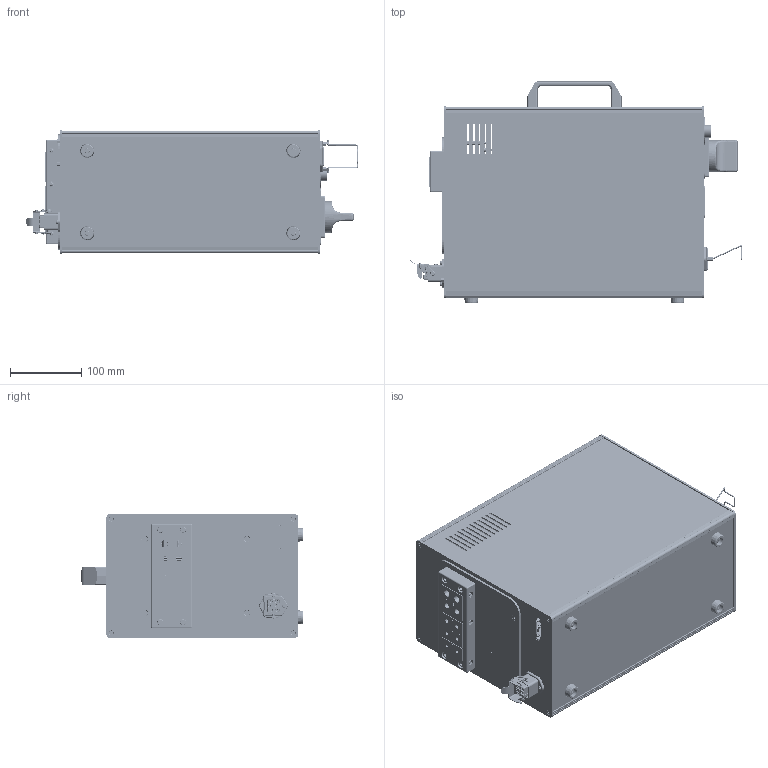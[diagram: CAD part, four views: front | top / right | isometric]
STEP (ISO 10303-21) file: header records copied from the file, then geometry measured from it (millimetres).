
FILE_DESCRIPTION (( 'STEP AP214' ), '1' );
FILE_NAME ('Horst_Control_step.STEP', '2020-09-17T09:00:50', ( '' ), ( '' ), 'SwSTEP 2.0', 'SolidWorks 2017', '' );
FILE_SCHEMA (( 'AUTOMOTIVE_DESIGN' ));
Length unit declared in the file: millimetre
Products named in the file (2): Horst_Control_step
Bounding box: 466.97 x 312.4 x 174 mm (x, y, z)
Surface area: 1193443.6 mm2 (no closed solid volume)
Topology: 0 solids, 192 shells, 8460 faces, 22460 edges, 14577 vertices
Faces by surface type: plane 4139, bspline 2291, cylinder 1680, cone 273, torus 61, sphere 16
Full cylindrical faces by diameter (mm): 1.5 x8, 1.6 x8, 1.8 x3, 1.85 x9, 2 x12, 2.1 x2, 2.459 x2, 2.5 x14, 2.8 x5, 2.896 x4, 2.9 x2, 3 x24, 3.2 x11, 3.242 x4, 3.3 x8, 3.4 x12, 3.5 x8, 3.6 x1, 3.7 x3, 4 x23, 4.2 x6, 4.3 x8, 4.318 x2, 4.4 x9, 4.5 x9, 4.85 x1, 4.917 x2, 4.998 x4, 5 x10, 5.2 x1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
Entity records: 411838 total; most frequent: CARTESIAN_POINT 123832, ORIENTED_EDGE 42892, DIRECTION 33599, EDGE_CURVE 21785, VERTEX_POINT 14439, LINE 13913, VECTOR 13913, AXIS2_PLACEMENT_3D 9843
